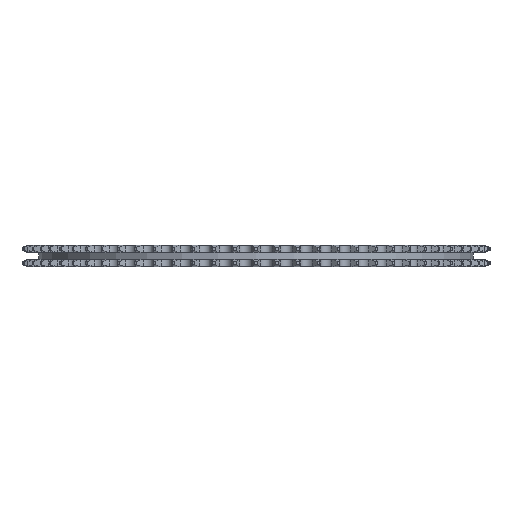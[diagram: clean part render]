
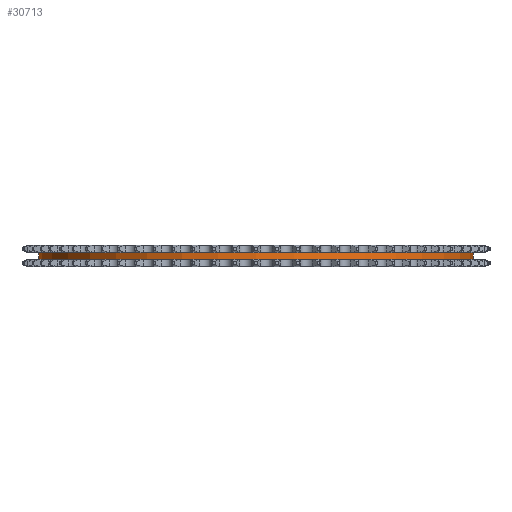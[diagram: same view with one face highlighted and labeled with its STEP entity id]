
A CAD part, left-side view. The second image highlights one B-rep face of the part: STEP entity #30713.
In plain terms, the highlighted cylindrical face has radius 84.157 mm (diameter 168.313 mm), a partial arc.
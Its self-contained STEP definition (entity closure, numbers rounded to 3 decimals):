
#6276=DIRECTION('',(0.,0.,-1.));
#6277=VECTOR('',#6276,2.7);
#6278=CARTESIAN_POINT('',(0.,84.157,1.35));
#6279=LINE('',#6278,#6277);
#6283=CARTESIAN_POINT('',(0.,0.,1.35));
#6284=DIRECTION('',(0.,0.,1.));
#6285=DIRECTION('',(0.,1.,0.));
#6286=AXIS2_PLACEMENT_3D('',#6283,#6284,#6285);
#6291=DIRECTION('',(0.,0.,-1.));
#6292=VECTOR('',#6291,2.7);
#6293=CARTESIAN_POINT('',(0.,-84.157,1.35));
#6294=LINE('',#6293,#6292);
#6298=CARTESIAN_POINT('',(0.,0.,-1.35));
#6299=DIRECTION('',(0.,0.,1.));
#6300=DIRECTION('',(0.,1.,0.));
#6301=AXIS2_PLACEMENT_3D('',#6298,#6299,#6300);
#24460=CARTESIAN_POINT('',(0.,84.157,1.35));
#24461=CARTESIAN_POINT('',(0.,84.157,-1.35));
#24462=VERTEX_POINT('',#24460);
#24463=VERTEX_POINT('',#24461);
#24464=CARTESIAN_POINT('',(0.,-84.157,1.35));
#24465=CARTESIAN_POINT('',(0.,-84.157,-1.35));
#24466=VERTEX_POINT('',#24464);
#24467=VERTEX_POINT('',#24465);
#30701=CARTESIAN_POINT('',(0.,0.,1.485));
#30702=DIRECTION('',(0.,0.,-1.));
#30703=DIRECTION('',(0.,-1.,0.));
#30704=AXIS2_PLACEMENT_3D('',#30701,#30702,#30703);
#30705=CYLINDRICAL_SURFACE('',#30704,84.157);
#30706=ORIENTED_EDGE('',*,*,#30691,.F.);
#30707=ORIENTED_EDGE('',*,*,#30681,.T.);
#30708=ORIENTED_EDGE('',*,*,#30695,.T.);
#30710=ORIENTED_EDGE('',*,*,#30709,.F.);
#30711=EDGE_LOOP('',(#30706,#30707,#30708,#30710));
#30712=FACE_OUTER_BOUND('',#30711,.F.);
#30713=ADVANCED_FACE('',(#30712),#30705,.T.);
#6287=CIRCLE('',#6286,84.157);
#6302=CIRCLE('',#6301,84.157);
#30681=EDGE_CURVE('',#24462,#24466,#6287,.T.);
#30691=EDGE_CURVE('',#24462,#24463,#6279,.T.);
#30695=EDGE_CURVE('',#24466,#24467,#6294,.T.);
#30709=EDGE_CURVE('',#24463,#24467,#6302,.T.);
